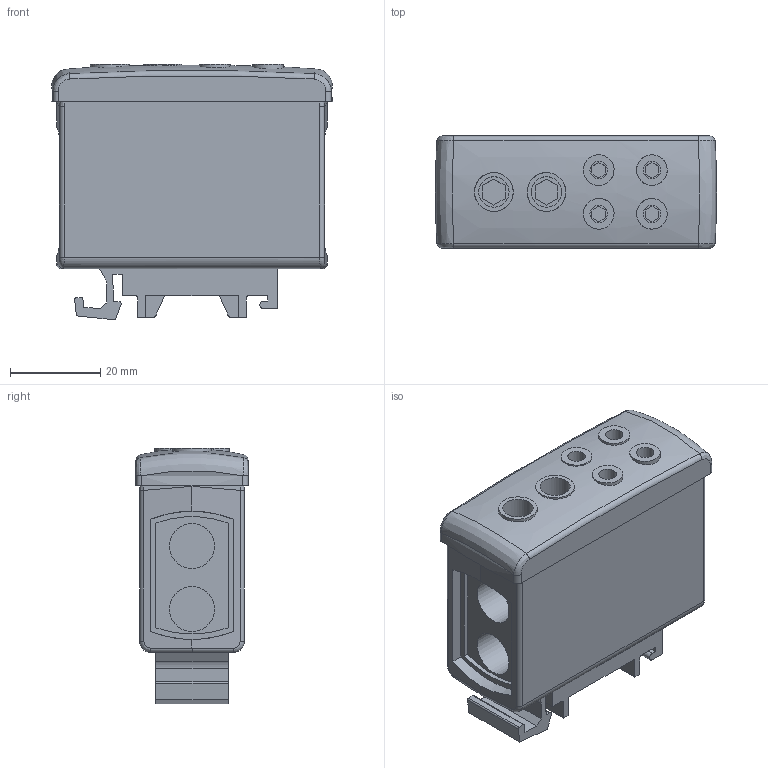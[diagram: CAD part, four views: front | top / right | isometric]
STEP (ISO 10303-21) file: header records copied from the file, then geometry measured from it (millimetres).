
FILE_DESCRIPTION(/* description */ ('Unknown'),/* implementation_level */ '2;1');
FILE_NAME(/* name */ 'utb 2x35_4x16',/* time_stamp */ '2021-04-01T13:13:31+02:00',/* author */ ('Unknown'),/* organization */ ('Unknown'),/* preprocessor_version */ 'ST-DEVELOPER v16.7',/* originating_system */ 'Solid Edge',/* authorisation */ 'Unknown');
FILE_SCHEMA (('AUTOMOTIVE_DESIGN {1 0 10303 214 3 1 1}'));
Length unit declared in the file: millimetre
Products named in the file (1): utb 2x35_4x16
Bounding box: 62.43 x 24.9 x 56.78 mm (x, y, z)
Volume: 58692.3 mm3; surface area: 15162.1 mm2
Topology: 1 solids, 1 shells, 196 faces, 490 edges, 324 vertices
Faces by surface type: plane 118, cylinder 57, bspline 18, torus 3
Full cylindrical faces by diameter (mm): 3.9 x4, 6.75 x2, 6.8 x4, 7 x4, 8.6 x2, 10 x2
Entity records: 5904 total; most frequent: CARTESIAN_POINT 1388, ORIENTED_EDGE 912, DIRECTION 894, EDGE_CURVE 456, VERTEX_POINT 309, AXIS2_PLACEMENT_3D 299, LINE 296, VECTOR 296
